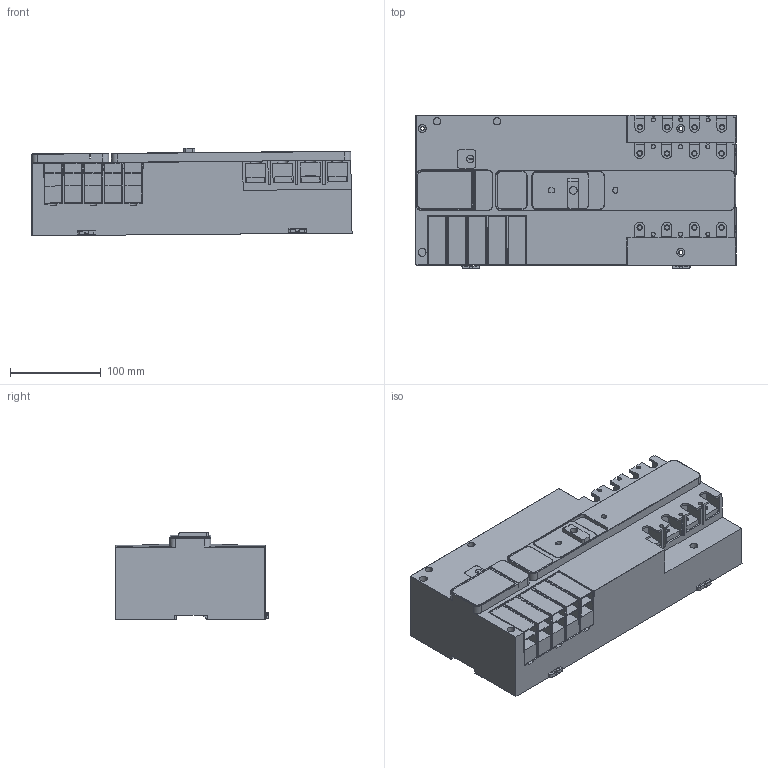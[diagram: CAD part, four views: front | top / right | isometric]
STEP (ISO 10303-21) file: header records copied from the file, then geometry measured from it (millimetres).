
FILE_DESCRIPTION((''),'2;1');
FILE_NAME('R2_IEC_4P_LCD_3D_SIMPLIFIED_ASM','2021-12-08T14:47:13',('SESA530330'),('Schneider-Electric'),'CREO PARAMETRIC BY PTC INC, 2019471','CREO PARAMETRIC BY PTC INC, 2019471','');
FILE_SCHEMA(('CONFIG_CONTROL_DESIGN'));
Length unit declared in the file: millimetre
Products named in the file (3): R2_IEC_4P_LCD_3D-SIMPLIFIED_1; R2_ICE_4P_LCD_3D_SIMPLIFIED_ASM_ASM; R2_IEC_4P_LCD_3D_SIMPLIFIED_ASM
Assembly tree (2 placements, depth 3):
  R2_IEC_4P_LCD_3D_SIMPLIFIED_ASM
    R2_ICE_4P_LCD_3D_SIMPLIFIED_ASM_ASM
      R2_IEC_4P_LCD_3D-SIMPLIFIED_1
Bounding box: 351.73 x 168.22 x 96.3 mm (x, y, z)
Volume: 4210160.6 mm3; surface area: 316274.3 mm2
Topology: 1 solids, 1 shells, 1353 faces, 3564 edges, 2277 vertices
Faces by surface type: plane 673, cylinder 505, torus 110, extrusion 28, sphere 19, bspline 14, cone 4
Entity records: 42836 total; most frequent: CARTESIAN_POINT 8812, DIRECTION 7126, ORIENTED_EDGE 7090, EDGE_CURVE 3545, AXIS2_PLACEMENT_3D 2411, VECTOR 2304, VERTEX_POINT 2277, LINE 2276
